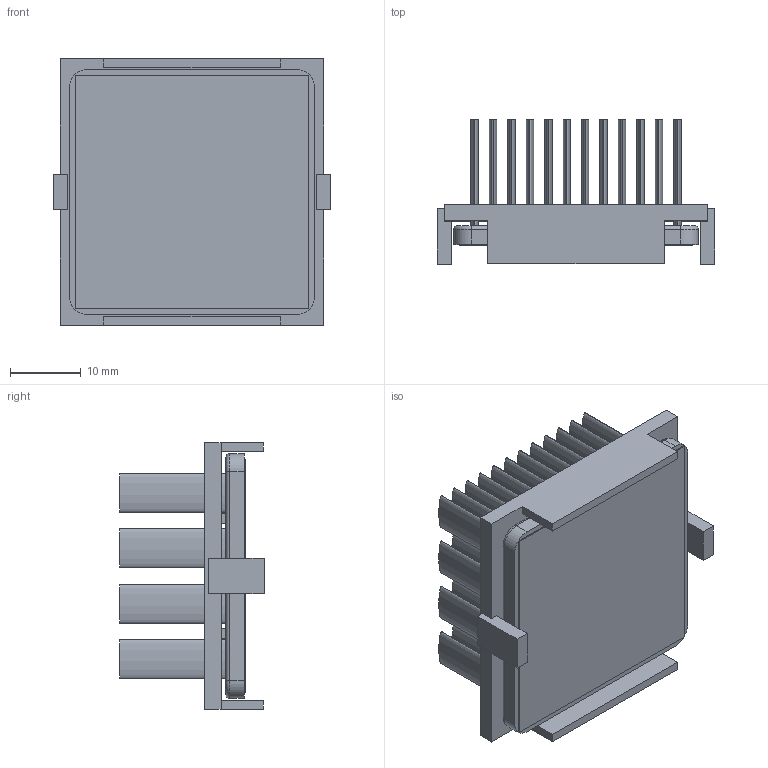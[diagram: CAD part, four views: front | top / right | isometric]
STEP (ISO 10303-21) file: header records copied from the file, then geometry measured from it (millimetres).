
FILE_DESCRIPTION (( 'STEP AP214' ), '1' );
FILE_NAME ('INM35001-18W-2.6K29.STEP', '2023-02-20T22:47:53', ( '' ), ( '' ), 'SwSTEP 2.0', 'SolidWorks 2020', '' );
FILE_SCHEMA (( 'AUTOMOTIVE_DESIGN' ));
Length unit declared in the file: inch
Products named in the file (1): INM35001-18W-2.6K29
Bounding box: 39.2 x 20.4 x 37.7 mm (x, y, z)
Volume: 8283.9 mm3; surface area: 15796.2 mm2
Topology: 3 solids, 3 shells, 222 faces, 496 edges, 328 vertices
Faces by surface type: plane 114, bspline 96, cylinder 8, torus 4
Entity records: 9276 total; most frequent: CARTESIAN_POINT 2295, ORIENTED_EDGE 992, DIRECTION 578, EDGE_CURVE 496, VERTEX_POINT 328, VECTOR 284, LINE 284, EDGE_LOOP 272
